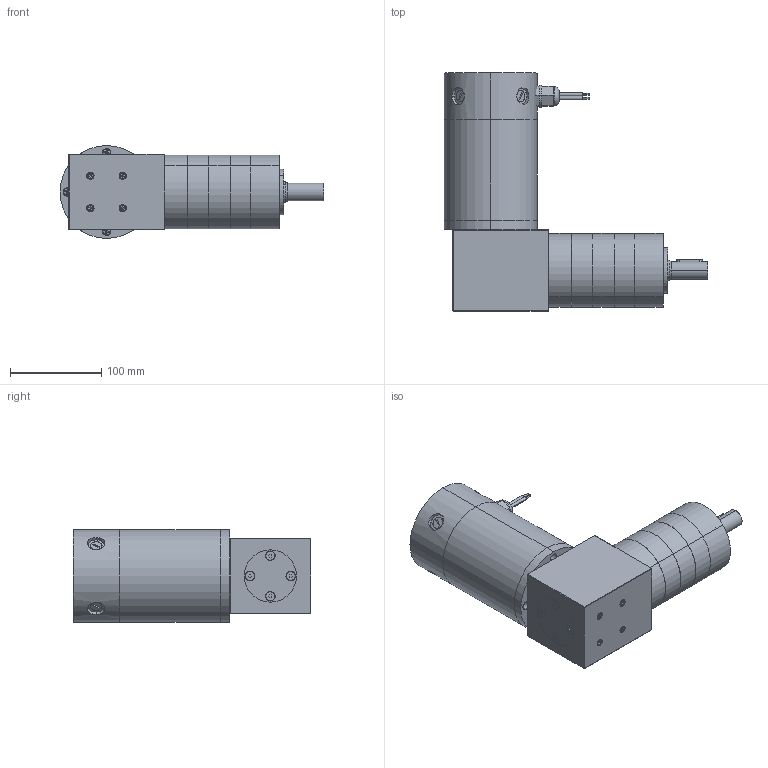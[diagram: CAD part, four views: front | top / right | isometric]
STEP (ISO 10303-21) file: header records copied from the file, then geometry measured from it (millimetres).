
FILE_DESCRIPTION (( 'STEP AP203' ), '1' );
FILE_NAME ('d40675bgra4.step', '2018-12-07T19:49:42', ( '' ), ( '' ), 'SwSTEP 2.0', 'SolidWorks 2017', '' );
FILE_SCHEMA (( 'CONFIG_CONTROL_DESIGN' ));
Length unit declared in the file: inch
Products named in the file (1): d40675bgra4
Bounding box: 288.5 x 260.35 x 101.6 mm (x, y, z)
Volume: 2824857.7 mm3; surface area: 276638 mm2
Topology: 29 solids, 29 shells, 1226 faces, 3047 edges, 1928 vertices
Faces by surface type: cylinder 717, plane 356, cone 117, torus 20, sphere 8, bspline 8
Entity records: 55685 total; most frequent: CARTESIAN_POINT 29120, ORIENTED_EDGE 6030, DIRECTION 5100, EDGE_CURVE 3015, VERTEX_POINT 1928, AXIS2_PLACEMENT_3D 1896, EDGE_LOOP 1339, VECTOR 1308
